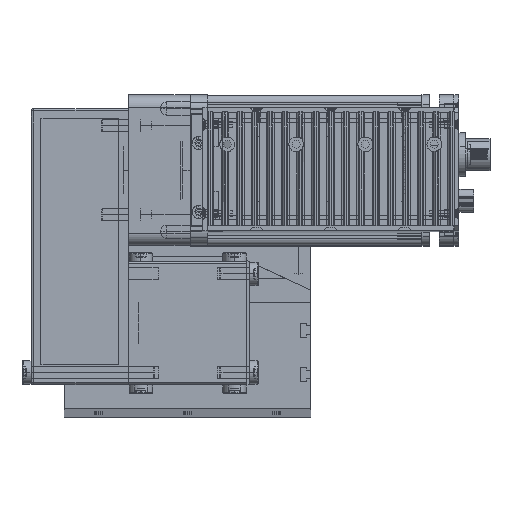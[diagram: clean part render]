
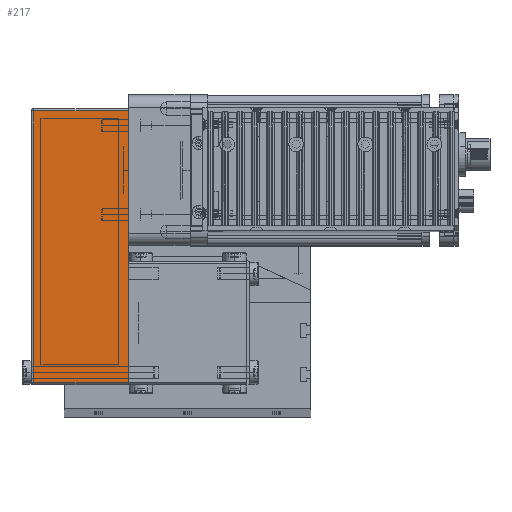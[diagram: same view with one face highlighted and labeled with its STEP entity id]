
A CAD part, top view. The second image highlights one B-rep face of the part: STEP entity #217.
In plain terms, the highlighted planar face has unit normal (0, 0, 1) as drawn and (0, -1, 0) by its records, which use the part's own axes.
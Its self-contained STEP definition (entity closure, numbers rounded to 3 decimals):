
#147 = ORIENTED_EDGE ( 'NONE', *, *, #47444, .T. ) ;
#215 = ORIENTED_EDGE ( 'NONE', *, *, #23607, .F. ) ;
#217 = ADVANCED_FACE ( 'NONE', ( #34519 ), #34525, .F. ) ;
#440 = EDGE_CURVE ( 'NONE', #24189, #24132, #34562, .T. ) ;
#1750 = ORIENTED_EDGE ( 'NONE', *, *, #440, .F. ) ;
#15154 = VECTOR ( 'NONE', #15162, 1000. ) ;
#15162 = DIRECTION ( 'NONE',  ( 1., 0., 0. ) ) ;
#15163 = CARTESIAN_POINT ( 'NONE',  ( -50., -25., 0. ) ) ;
#15179 = LINE ( 'NONE', #15163, #15154 ) ;
#23512 = VERTEX_POINT ( 'NONE', #42543 ) ;
#23607 = EDGE_CURVE ( 'NONE', #23512, #24189, #42701, .T. ) ;
#24132 = VERTEX_POINT ( 'NONE', #43701 ) ;
#24189 = VERTEX_POINT ( 'NONE', #43825 ) ;
#24227 = VERTEX_POINT ( 'NONE', #43873 ) ;
#24286 = EDGE_CURVE ( 'NONE', #24132, #24227, #43940, .T. ) ;
#34509 = DIRECTION ( 'NONE',  ( 0., 0., 1. ) ) ;
#34510 = DIRECTION ( 'NONE',  ( 0., 1., 0. ) ) ;
#34517 = CARTESIAN_POINT ( 'NONE',  ( -50., -25., 39.5 ) ) ;
#34518 = AXIS2_PLACEMENT_3D ( 'NONE', #34517, #34510, #34509 ) ;
#34519 = FACE_OUTER_BOUND ( 'NONE', #47251, .T. ) ;
#34525 = PLANE ( 'NONE',  #34518 ) ;
#34557 = DIRECTION ( 'NONE',  ( 1., 0., 0. ) ) ;
#34558 = VECTOR ( 'NONE', #34557, 1000. ) ;
#34559 = CARTESIAN_POINT ( 'NONE',  ( -50., -25., 38.5 ) ) ;
#34562 = LINE ( 'NONE', #34559, #34558 ) ;
#42543 = CARTESIAN_POINT ( 'NONE',  ( -49., -25., 0. ) ) ;
#42701 = LINE ( 'NONE', #42759, #42758 ) ;
#42757 = DIRECTION ( 'NONE',  ( 0., 0., 1. ) ) ;
#42758 = VECTOR ( 'NONE', #42757, 1000. ) ;
#42759 = CARTESIAN_POINT ( 'NONE',  ( -49., -25., 39.5 ) ) ;
#43701 = CARTESIAN_POINT ( 'NONE',  ( 61., -25., 38.5 ) ) ;
#43825 = CARTESIAN_POINT ( 'NONE',  ( -49., -25., 38.5 ) ) ;
#43873 = CARTESIAN_POINT ( 'NONE',  ( 61., -25., 0. ) ) ;
#43940 = LINE ( 'NONE', #43998, #43997 ) ;
#43996 = DIRECTION ( 'NONE',  ( 0., 0., -1. ) ) ;
#43997 = VECTOR ( 'NONE', #43996, 1000. ) ;
#43998 = CARTESIAN_POINT ( 'NONE',  ( 61., -25., 39.5 ) ) ;
#47251 = EDGE_LOOP ( 'NONE', ( #215, #147, #47716, #1750 ) ) ;
#47444 = EDGE_CURVE ( 'NONE', #23512, #24227, #15179, .T. ) ;
#47716 = ORIENTED_EDGE ( 'NONE', *, *, #24286, .F. ) ;
